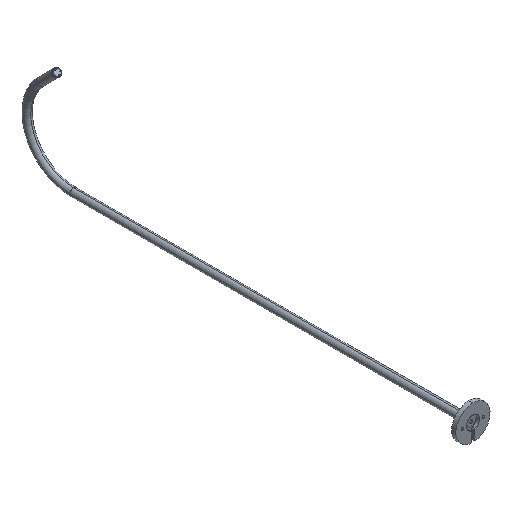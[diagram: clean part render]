
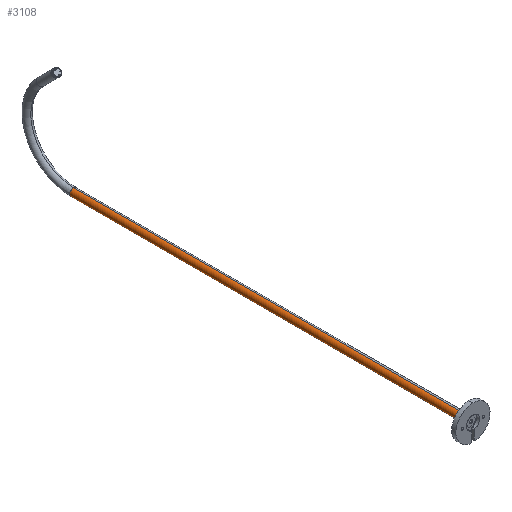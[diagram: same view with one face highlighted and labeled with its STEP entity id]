
A CAD part, isometric view. The second image highlights one B-rep face of the part: STEP entity #3108.
In plain terms, the highlighted cylindrical face has radius 7 mm (diameter 14 mm), a partial arc.
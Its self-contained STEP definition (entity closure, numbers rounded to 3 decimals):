
#129 = AXIS2_PLACEMENT_3D ( 'NONE', #2689, #3913, #510 ) ;
#202 = CARTESIAN_POINT ( 'NONE',  ( 0., 0., 0. ) ) ;
#250 = EDGE_LOOP ( 'NONE', ( #2072, #399, #2143, #940 ) ) ;
#390 = VERTEX_POINT ( 'NONE', #1181 ) ;
#399 = ORIENTED_EDGE ( 'NONE', *, *, #2430, .T. ) ;
#480 = EDGE_CURVE ( 'NONE', #2519, #1226, #2783, .T. ) ;
#510 = DIRECTION ( 'NONE',  ( -1., 0., 0. ) ) ;
#743 = VERTEX_POINT ( 'NONE', #3811 ) ;
#807 = CARTESIAN_POINT ( 'NONE',  ( 0., 0., 0. ) ) ;
#940 = ORIENTED_EDGE ( 'NONE', *, *, #2294, .T. ) ;
#1137 = CARTESIAN_POINT ( 'NONE',  ( 7., 0., 0. ) ) ;
#1181 = CARTESIAN_POINT ( 'NONE',  ( 7., 752., 0. ) ) ;
#1226 = VERTEX_POINT ( 'NONE', #3390 ) ;
#1269 = CARTESIAN_POINT ( 'NONE',  ( -7., 0., 0. ) ) ;
#1804 = DIRECTION ( 'NONE',  ( 0., 1., 0. ) ) ;
#1824 = DIRECTION ( 'NONE',  ( 0., 1., 0. ) ) ;
#2072 = ORIENTED_EDGE ( 'NONE', *, *, #3816, .F. ) ;
#2143 = ORIENTED_EDGE ( 'NONE', *, *, #480, .T. ) ;
#2144 = AXIS2_PLACEMENT_3D ( 'NONE', #807, #2342, #4019 ) ;
#2278 = DIRECTION ( 'NONE',  ( 0., 1., 0. ) ) ;
#2294 = EDGE_CURVE ( 'NONE', #1226, #390, #2821, .T. ) ;
#2342 = DIRECTION ( 'NONE',  ( 0., 1., 0. ) ) ;
#2430 = EDGE_CURVE ( 'NONE', #743, #2519, #3368, .T. ) ;
#2519 = VERTEX_POINT ( 'NONE', #1269 ) ;
#2689 = CARTESIAN_POINT ( 'NONE',  ( 0., 752., 0. ) ) ;
#2783 = LINE ( 'NONE', #3755, #3325 ) ;
#2821 = CIRCLE ( 'NONE', #129, 7. ) ;
#3073 = LINE ( 'NONE', #1137, #3813 ) ;
#3108 = ADVANCED_FACE ( 'NONE', ( #3311 ), #3859, .T. ) ;
#3291 = DIRECTION ( 'NONE',  ( -1., 0., 0. ) ) ;
#3311 = FACE_OUTER_BOUND ( 'NONE', #250, .T. ) ;
#3325 = VECTOR ( 'NONE', #1824, 1000. ) ;
#3368 = CIRCLE ( 'NONE', #2144, 7. ) ;
#3390 = CARTESIAN_POINT ( 'NONE',  ( -7., 752., 0. ) ) ;
#3664 = AXIS2_PLACEMENT_3D ( 'NONE', #202, #2278, #3291 ) ;
#3755 = CARTESIAN_POINT ( 'NONE',  ( -7., 0., 0. ) ) ;
#3811 = CARTESIAN_POINT ( 'NONE',  ( 7., 0., 0. ) ) ;
#3813 = VECTOR ( 'NONE', #1804, 1000. ) ;
#3816 = EDGE_CURVE ( 'NONE', #743, #390, #3073, .T. ) ;
#3859 = CYLINDRICAL_SURFACE ( 'NONE', #3664, 7. ) ;
#3913 = DIRECTION ( 'NONE',  ( 0., -1., 0. ) ) ;
#4019 = DIRECTION ( 'NONE',  ( -1., 0., 0. ) ) ;
